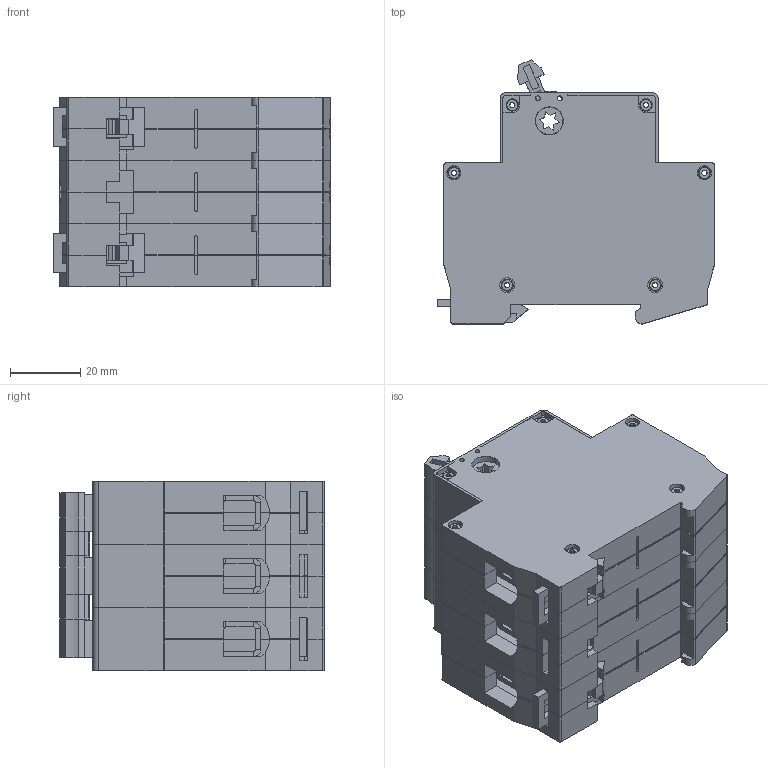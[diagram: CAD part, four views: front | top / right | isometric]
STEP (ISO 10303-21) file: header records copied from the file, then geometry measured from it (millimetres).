
FILE_DESCRIPTION (( 'STEP AP214' ), '1' );
FILE_NAME ('蟬-32 3 瀁錌黟.STEP', '2022-11-18T10:09:39', ( '' ), ( '' ), 'SwSTEP 2.0', 'SolidWorks 2018', '' );
FILE_SCHEMA (( 'AUTOMOTIVE_DESIGN' ));
Length unit declared in the file: millimetre
Products named in the file (14): Áîêîâèíà ïðàâàÿ ÂÍ32 Changan(4.04.2022); ﾂﾍ-32 1ﾕ Changan_尚皚･､ｭｨｩ ｯｮｫ髜; Ðó÷êà ÂÍ32 Changan; Áîêîâèíà ëåâàÿ ÂÍ32 Changan(4.04.2022); ÂÍ-32 1Õ Changan_1 ¤«ï 3; 青觌屣赅 峦32 Changan_51; Êîëîäêà ÂÍ32 (4.04.2022); 蟬-32 3 瀁錌黟; ﾂﾍ-32 1ﾕ Changan_｡･ｧ ｧ鬣ｫｪｨ; öâåòíàÿ âñòàâêà_§¥«ñ­ ï; 褪浯 糂粲濱red; ìåæïîëþñíàÿ âñòàâêà äëÿ ÂÍ32; 鎔艜 蟬32 (4.04.2022); Çàùåëêà (ÂÀ47-29 Changan) 04.2022
Assembly tree (40 placements, depth 3):
  蟬-32 3 瀁錌黟
    ﾂﾍ-32 1ﾕ Changan_｡･ｧ ｧ鬣ｫｪｨ
      Áîêîâèíà ïðàâàÿ ÂÍ32 Changan(4.04.2022)
      Áîêîâèíà ëåâàÿ ÂÍ32 Changan(4.04.2022)
      Ðó÷êà ÂÍ32 Changan
      鎔艜 蟬32 (4.04.2022)  x2
      Êîëîäêà ÂÍ32 (4.04.2022)  x2
      öâåòíàÿ âñòàâêà_§¥«ñ­ ï
      褪浯 糂粲濱red
      ìåæïîëþñíàÿ âñòàâêà äëÿ ÂÍ32
    ﾂﾍ-32 1ﾕ Changan_尚皚･､ｭｨｩ ｯｮｫ髜
      Áîêîâèíà ïðàâàÿ ÂÍ32 Changan(4.04.2022)
      Áîêîâèíà ëåâàÿ ÂÍ32 Changan(4.04.2022)
      Çàùåëêà (ÂÀ47-29 Changan) 04.2022
      Ðó÷êà ÂÍ32 Changan
      鎔艜 蟬32 (4.04.2022)  x2
      Êîëîäêà ÂÍ32 (4.04.2022)  x2
      öâåòíàÿ âñòàâêà_§¥«ñ­ ï
      褪浯 糂粲濱red
      ìåæïîëþñíàÿ âñòàâêà äëÿ ÂÍ32
    ÂÍ-32 1Õ Changan_1 ¤«ï 3
      Áîêîâèíà ïðàâàÿ ÂÍ32 Changan(4.04.2022)
      Áîêîâèíà ëåâàÿ ÂÍ32 Changan(4.04.2022)
      Çàùåëêà (ÂÀ47-29 Changan) 04.2022
      Ðó÷êà ÂÍ32 Changan
      鎔艜 蟬32 (4.04.2022)  x2
      Êîëîäêà ÂÍ32 (4.04.2022)  x2
      青觌屣赅 峦32 Changan_51  x6
      öâåòíàÿ âñòàâêà_§¥«ñ­ ï
      褪浯 糂粲濱red
Bounding box: 78.8 x 75.18 x 54 mm (x, y, z)
Volume: 169047.5 mm3; surface area: 101589.1 mm2
Topology: 37 solids, 37 shells, 2454 faces, 6578 edges, 4239 vertices
Faces by surface type: plane 1722, cylinder 618, torus 96, cone 18
Entity records: 21665 total; most frequent: CARTESIAN_POINT 3802, ORIENTED_EDGE 3608, DIRECTION 3579, EDGE_CURVE 1804, LINE 1367, VECTOR 1367, VERTEX_POINT 1177, AXIS2_PLACEMENT_3D 1106
